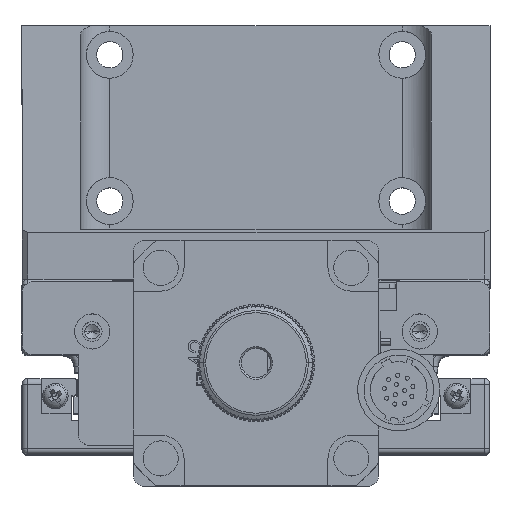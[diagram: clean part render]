
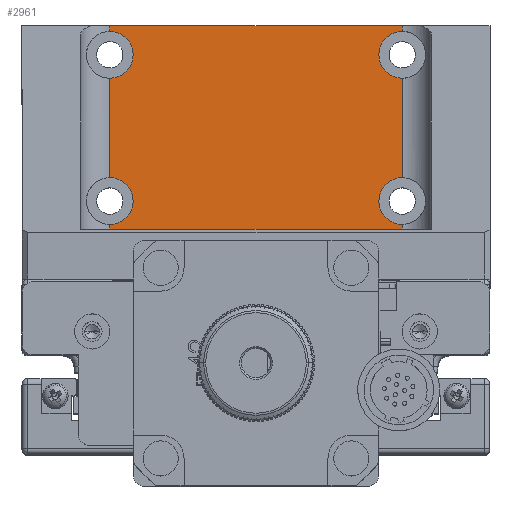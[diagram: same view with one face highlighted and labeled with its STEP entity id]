
A CAD part, top view. The second image highlights one B-rep face of the part: STEP entity #2961.
In plain terms, the highlighted planar face has unit normal (0, 0, 1).
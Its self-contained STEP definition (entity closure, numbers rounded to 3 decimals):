
#673 = VERTEX_POINT ( 'NONE', #25792 ) ;
#939 = ORIENTED_EDGE ( 'NONE', *, *, #53383, .F. ) ;
#985 = AXIS2_PLACEMENT_3D ( 'NONE', #50661, #20102, #18922 ) ;
#1250 = ORIENTED_EDGE ( 'NONE', *, *, #6921, .F. ) ;
#1550 = VECTOR ( 'NONE', #52330, 1000. ) ;
#2831 = VERTEX_POINT ( 'NONE', #25488 ) ;
#2961 = ADVANCED_FACE ( 'NONE', ( #54208 ), #18034, .T. ) ;
#3035 = CARTESIAN_POINT ( 'NONE',  ( -25., 0., 4.5 ) ) ;
#3108 = CARTESIAN_POINT ( 'NONE',  ( -25., -7.5, 4.5 ) ) ;
#3243 = EDGE_CURVE ( 'NONE', #25273, #39310, #11453, .T. ) ;
#3360 = ORIENTED_EDGE ( 'NONE', *, *, #31029, .F. ) ;
#4572 = CARTESIAN_POINT ( 'NONE',  ( -21., -7.5, 4.5 ) ) ;
#5379 = DIRECTION ( 'NONE',  ( 0., 0., 1. ) ) ;
#5860 = CARTESIAN_POINT ( 'NONE',  ( 25., 21.5, 4.5 ) ) ;
#6274 = LINE ( 'NONE', #6574, #49972 ) ;
#6574 = CARTESIAN_POINT ( 'NONE',  ( -40., 22.5, 4.5 ) ) ;
#6675 = ORIENTED_EDGE ( 'NONE', *, *, #42851, .F. ) ;
#6796 = DIRECTION ( 'NONE',  ( 0., 0., 1. ) ) ;
#6921 = EDGE_CURVE ( 'NONE', #19767, #13796, #54006, .T. ) ;
#7147 = VECTOR ( 'NONE', #56077, 1000. ) ;
#7282 = DIRECTION ( 'NONE',  ( 0., 0., 1. ) ) ;
#7496 = CARTESIAN_POINT ( 'NONE',  ( -25., -11.5, 4.5 ) ) ;
#7698 = VECTOR ( 'NONE', #54667, 1000. ) ;
#8506 = CIRCLE ( 'NONE', #45508, 4. ) ;
#9065 = VERTEX_POINT ( 'NONE', #15406 ) ;
#9837 = CIRCLE ( 'NONE', #55329, 4. ) ;
#10412 = ORIENTED_EDGE ( 'NONE', *, *, #18507, .T. ) ;
#11097 = LINE ( 'NONE', #24773, #12030 ) ;
#11433 = CIRCLE ( 'NONE', #985, 4. ) ;
#11453 = LINE ( 'NONE', #25990, #23194 ) ;
#12030 = VECTOR ( 'NONE', #15548, 1000. ) ;
#13796 = VERTEX_POINT ( 'NONE', #38204 ) ;
#13911 = EDGE_CURVE ( 'NONE', #34030, #56140, #28704, .T. ) ;
#14924 = AXIS2_PLACEMENT_3D ( 'NONE', #16198, #15311, #28992 ) ;
#15311 = DIRECTION ( 'NONE',  ( 0., 0., 1. ) ) ;
#15386 = ORIENTED_EDGE ( 'NONE', *, *, #26468, .T. ) ;
#15406 = CARTESIAN_POINT ( 'NONE',  ( -21., 17.5, 4.5 ) ) ;
#15419 = CARTESIAN_POINT ( 'NONE',  ( 25., -7.5, 4.5 ) ) ;
#15548 = DIRECTION ( 'NONE',  ( 0., -1., 0. ) ) ;
#16198 = CARTESIAN_POINT ( 'NONE',  ( -25., 17.5, 4.5 ) ) ;
#17097 = DIRECTION ( 'NONE',  ( 1., 0., 0. ) ) ;
#18034 = PLANE ( 'NONE',  #22225 ) ;
#18321 = DIRECTION ( 'NONE',  ( 0., 0., 1. ) ) ;
#18507 = EDGE_CURVE ( 'NONE', #54016, #673, #21298, .T. ) ;
#18785 = LINE ( 'NONE', #23837, #29016 ) ;
#18922 = DIRECTION ( 'NONE',  ( 1., 0., 0. ) ) ;
#18981 = ORIENTED_EDGE ( 'NONE', *, *, #40399, .T. ) ;
#19400 = CIRCLE ( 'NONE', #51620, 4. ) ;
#19767 = VERTEX_POINT ( 'NONE', #5860 ) ;
#20102 = DIRECTION ( 'NONE',  ( 0., 0., 1. ) ) ;
#21254 = DIRECTION ( 'NONE',  ( 0., 1., 0. ) ) ;
#21298 = LINE ( 'NONE', #26029, #7147 ) ;
#22225 = AXIS2_PLACEMENT_3D ( 'NONE', #31093, #18321, #53624 ) ;
#22461 = VECTOR ( 'NONE', #34796, 1000. ) ;
#22951 = LINE ( 'NONE', #40465, #7698 ) ;
#23042 = AXIS2_PLACEMENT_3D ( 'NONE', #3108, #39676, #17097 ) ;
#23194 = VECTOR ( 'NONE', #21254, 1000. ) ;
#23424 = CARTESIAN_POINT ( 'NONE',  ( 25., 17.5, 4.5 ) ) ;
#23837 = CARTESIAN_POINT ( 'NONE',  ( 25., 0., 4.5 ) ) ;
#23989 = DIRECTION ( 'NONE',  ( 1., 0., 0. ) ) ;
#24086 = CARTESIAN_POINT ( 'NONE',  ( -25., -7.5, 4.5 ) ) ;
#24773 = CARTESIAN_POINT ( 'NONE',  ( -25., 0., 4.5 ) ) ;
#25273 = VERTEX_POINT ( 'NONE', #30644 ) ;
#25488 = CARTESIAN_POINT ( 'NONE',  ( 25., 22.5, 4.5 ) ) ;
#25792 = CARTESIAN_POINT ( 'NONE',  ( -25., 21.5, 4.5 ) ) ;
#25990 = CARTESIAN_POINT ( 'NONE',  ( 25., 0., 4.5 ) ) ;
#26029 = CARTESIAN_POINT ( 'NONE',  ( -25., 0., 4.5 ) ) ;
#26098 = EDGE_CURVE ( 'NONE', #34030, #43358, #11097, .T. ) ;
#26218 = EDGE_CURVE ( 'NONE', #35477, #55418, #30373, .T. ) ;
#26427 = CARTESIAN_POINT ( 'NONE',  ( -25., 13.5, 4.5 ) ) ;
#26468 = EDGE_CURVE ( 'NONE', #19767, #2831, #18785, .T. ) ;
#26561 = EDGE_CURVE ( 'NONE', #2831, #54016, #6274, .T. ) ;
#28461 = AXIS2_PLACEMENT_3D ( 'NONE', #38184, #48250, #55963 ) ;
#28593 = ORIENTED_EDGE ( 'NONE', *, *, #38229, .F. ) ;
#28704 = CIRCLE ( 'NONE', #23042, 4. ) ;
#28916 = CARTESIAN_POINT ( 'NONE',  ( -25., -12.5, 4.5 ) ) ;
#28992 = DIRECTION ( 'NONE',  ( 1., 0., 0. ) ) ;
#29001 = DIRECTION ( 'NONE',  ( 1., 0., 0. ) ) ;
#29016 = VECTOR ( 'NONE', #46068, 1000. ) ;
#29391 = DIRECTION ( 'NONE',  ( 1., 0., 0. ) ) ;
#29412 = ORIENTED_EDGE ( 'NONE', *, *, #3243, .T. ) ;
#29473 = VERTEX_POINT ( 'NONE', #40362 ) ;
#30373 = LINE ( 'NONE', #3035, #1550 ) ;
#30644 = CARTESIAN_POINT ( 'NONE',  ( 25., -12.5, 4.5 ) ) ;
#30905 = CARTESIAN_POINT ( 'NONE',  ( 25., 0., 4.5 ) ) ;
#31029 = EDGE_CURVE ( 'NONE', #53803, #39310, #40405, .T. ) ;
#31093 = CARTESIAN_POINT ( 'NONE',  ( 0., 0., 4.5 ) ) ;
#32009 = DIRECTION ( 'NONE',  ( 0., 0., 1. ) ) ;
#32160 = ORIENTED_EDGE ( 'NONE', *, *, #47084, .F. ) ;
#32700 = DIRECTION ( 'NONE',  ( 1., 0., 0. ) ) ;
#34030 = VERTEX_POINT ( 'NONE', #7496 ) ;
#34796 = DIRECTION ( 'NONE',  ( 0., 1., 0. ) ) ;
#35477 = VERTEX_POINT ( 'NONE', #26427 ) ;
#35981 = ORIENTED_EDGE ( 'NONE', *, *, #45883, .F. ) ;
#35986 = CARTESIAN_POINT ( 'NONE',  ( -25., -3.5, 4.5 ) ) ;
#38184 = CARTESIAN_POINT ( 'NONE',  ( 25., 17.5, 4.5 ) ) ;
#38204 = CARTESIAN_POINT ( 'NONE',  ( 21., 17.5, 4.5 ) ) ;
#38229 = EDGE_CURVE ( 'NONE', #53594, #53803, #9837, .T. ) ;
#39310 = VERTEX_POINT ( 'NONE', #56435 ) ;
#39676 = DIRECTION ( 'NONE',  ( 0., 0., 1. ) ) ;
#40362 = CARTESIAN_POINT ( 'NONE',  ( 25., 13.5, 4.5 ) ) ;
#40399 = EDGE_CURVE ( 'NONE', #53594, #29473, #57322, .T. ) ;
#40405 = CIRCLE ( 'NONE', #48113, 4. ) ;
#40465 = CARTESIAN_POINT ( 'NONE',  ( 0., -12.5, 4.5 ) ) ;
#40537 = CIRCLE ( 'NONE', #14924, 4. ) ;
#42851 = EDGE_CURVE ( 'NONE', #9065, #673, #40537, .T. ) ;
#43358 = VERTEX_POINT ( 'NONE', #28916 ) ;
#43705 = CARTESIAN_POINT ( 'NONE',  ( -25., 22.5, 4.5 ) ) ;
#45508 = AXIS2_PLACEMENT_3D ( 'NONE', #24086, #5379, #32700 ) ;
#45883 = EDGE_CURVE ( 'NONE', #56140, #55418, #8506, .T. ) ;
#46068 = DIRECTION ( 'NONE',  ( 0., 1., 0. ) ) ;
#46371 = DIRECTION ( 'NONE',  ( -1., 0., 0. ) ) ;
#46662 = ORIENTED_EDGE ( 'NONE', *, *, #26218, .T. ) ;
#47084 = EDGE_CURVE ( 'NONE', #25273, #43358, #22951, .T. ) ;
#47752 = EDGE_CURVE ( 'NONE', #35477, #9065, #11433, .T. ) ;
#48113 = AXIS2_PLACEMENT_3D ( 'NONE', #52115, #7282, #29001 ) ;
#48250 = DIRECTION ( 'NONE',  ( 0., 0., 1. ) ) ;
#49972 = VECTOR ( 'NONE', #46371, 1000. ) ;
#50661 = CARTESIAN_POINT ( 'NONE',  ( -25., 17.5, 4.5 ) ) ;
#50669 = ORIENTED_EDGE ( 'NONE', *, *, #47752, .F. ) ;
#51620 = AXIS2_PLACEMENT_3D ( 'NONE', #23424, #32009, #23989 ) ;
#52115 = CARTESIAN_POINT ( 'NONE',  ( 25., -7.5, 4.5 ) ) ;
#52330 = DIRECTION ( 'NONE',  ( 0., -1., 0. ) ) ;
#53383 = EDGE_CURVE ( 'NONE', #13796, #29473, #19400, .T. ) ;
#53594 = VERTEX_POINT ( 'NONE', #58357 ) ;
#53624 = DIRECTION ( 'NONE',  ( 1., 0., 0. ) ) ;
#53705 = ORIENTED_EDGE ( 'NONE', *, *, #26098, .T. ) ;
#53755 = ORIENTED_EDGE ( 'NONE', *, *, #13911, .F. ) ;
#53803 = VERTEX_POINT ( 'NONE', #55346 ) ;
#54006 = CIRCLE ( 'NONE', #28461, 4. ) ;
#54016 = VERTEX_POINT ( 'NONE', #43705 ) ;
#54208 = FACE_OUTER_BOUND ( 'NONE', #55205, .T. ) ;
#54667 = DIRECTION ( 'NONE',  ( -1., 0., 0. ) ) ;
#55205 = EDGE_LOOP ( 'NONE', ( #28593, #18981, #939, #1250, #15386, #56954, #10412, #6675, #50669, #46662, #35981, #53755, #53705, #32160, #29412, #3360 ) ) ;
#55329 = AXIS2_PLACEMENT_3D ( 'NONE', #15419, #6796, #29391 ) ;
#55346 = CARTESIAN_POINT ( 'NONE',  ( 21., -7.5, 4.5 ) ) ;
#55418 = VERTEX_POINT ( 'NONE', #35986 ) ;
#55963 = DIRECTION ( 'NONE',  ( 1., 0., 0. ) ) ;
#56077 = DIRECTION ( 'NONE',  ( 0., -1., 0. ) ) ;
#56140 = VERTEX_POINT ( 'NONE', #4572 ) ;
#56435 = CARTESIAN_POINT ( 'NONE',  ( 25., -11.5, 4.5 ) ) ;
#56954 = ORIENTED_EDGE ( 'NONE', *, *, #26561, .T. ) ;
#57322 = LINE ( 'NONE', #30905, #22461 ) ;
#58357 = CARTESIAN_POINT ( 'NONE',  ( 25., -3.5, 4.5 ) ) ;
